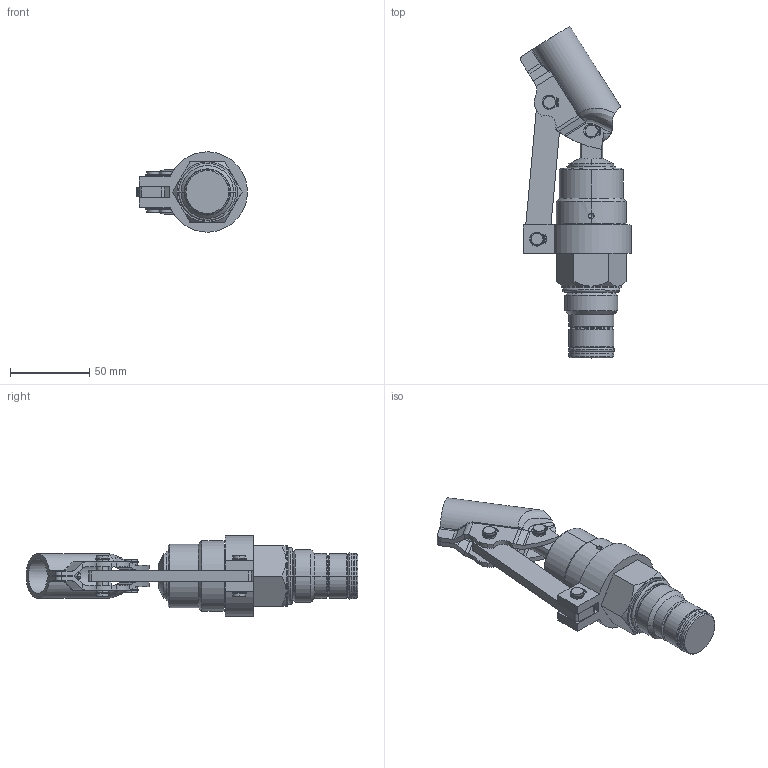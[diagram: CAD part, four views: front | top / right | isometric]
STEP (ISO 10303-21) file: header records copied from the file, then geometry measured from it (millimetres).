
FILE_DESCRIPTION((''),'2;1');
FILE_NAME('HP16-21B','2009-02-09T',('jcs'),(''),'PRO/ENGINEER BY PARAMETRIC TECHNOLOGY CORPORATION, 2008010','PRO/ENGINEER BY PARAMETRIC TECHNOLOGY CORPORATION, 2008010','');
FILE_SCHEMA(('CONFIG_CONTROL_DESIGN'));
Length unit declared in the file: inch
Products named in the file (1): HP16-21B
Bounding box: 70.18 x 209.93 x 50.79 mm (x, y, z)
Volume: 185798.4 mm3; surface area: 51063.7 mm2
Topology: 9 solids, 9 shells, 469 faces, 1220 edges, 760 vertices
Faces by surface type: cylinder 228, plane 121, cone 48, bspline 44, revolution 16, torus 10, sphere 2
Entity records: 22105 total; most frequent: CARTESIAN_POINT 10580, ORIENTED_EDGE 2424, DIRECTION 2418, EDGE_CURVE 1212, AXIS2_PLACEMENT_3D 953, VERTEX_POINT 760, CIRCLE 544, EDGE_LOOP 528
